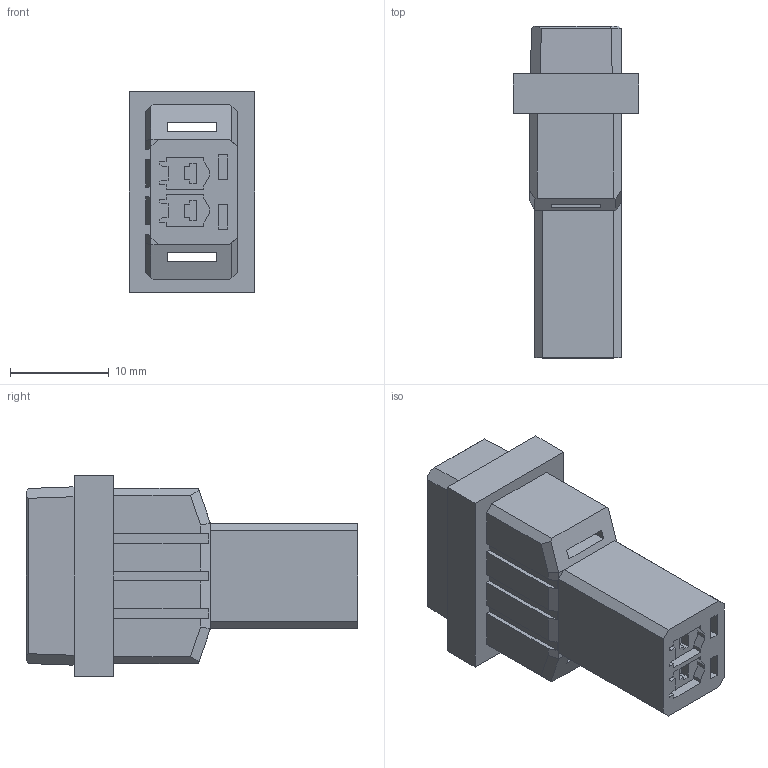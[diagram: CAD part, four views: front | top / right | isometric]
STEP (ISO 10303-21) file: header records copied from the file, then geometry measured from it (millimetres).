
FILE_DESCRIPTION (( 'STEP AP203' ), '1' );
FILE_NAME ('HC-3810-2SY-05（3.81 单排 母孔座-HCTL）.STEP', '2024-08-10T01:21:32', ( '' ), ( '' ), 'SwSTEP 2.0', 'SolidWorks 2022', '' );
FILE_SCHEMA (( 'CONFIG_CONTROL_DESIGN' ));
Length unit declared in the file: millimetre
Products named in the file (1): HC-3810-2SY-05（3.81 单排 母孔座-HCTL）
Bounding box: 12.7 x 33.6 x 20.32 mm (x, y, z)
Volume: 4084.8 mm3; surface area: 2691.8 mm2
Topology: 1 solids, 1 shells, 182 faces, 502 edges, 330 vertices
Faces by surface type: plane 182
Entity records: 5739 total; most frequent: CARTESIAN_POINT 1015, ORIENTED_EDGE 1004, DIRECTION 868, LINE 502, EDGE_CURVE 502, VECTOR 502, VERTEX_POINT 330, EDGE_LOOP 194
